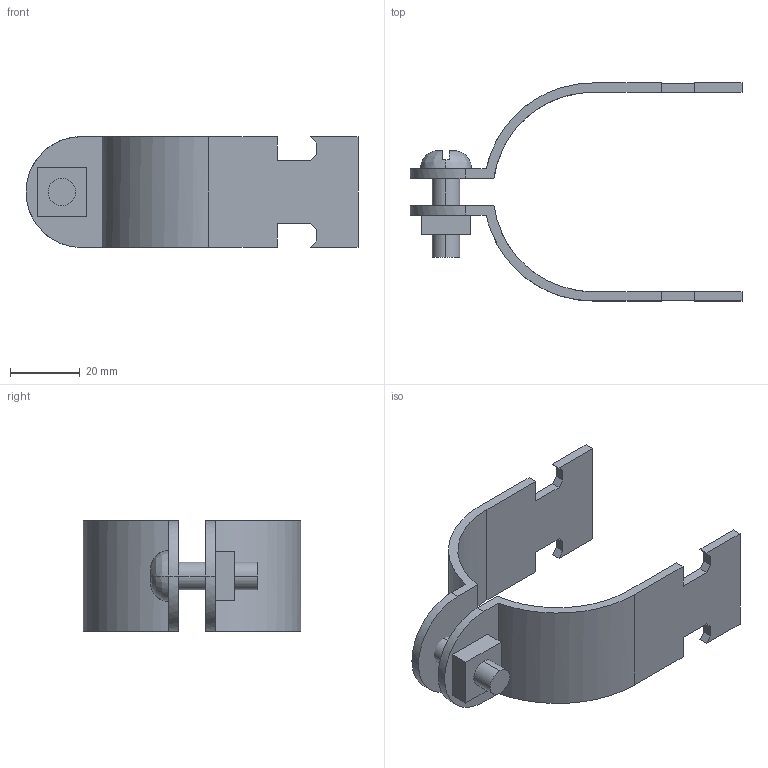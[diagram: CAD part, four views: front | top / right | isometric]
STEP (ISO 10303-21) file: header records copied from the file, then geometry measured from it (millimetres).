
FILE_DESCRIPTION(('TurboCAD Mac Pro'),'Build 980');
FILE_NAME('P2040.stp',' ',(''),(''),'ACIS Interop','IMSI','TurboCAD Mac Pro BY IMSI, INCORPORATED');
FILE_SCHEMA(('automotive_design'));
Length unit declared in the file: inch
Products named in the file (5): 1; 2; 3; 4; 5
Bounding box: 95.2 x 62.46 x 31.74 mm (x, y, z)
Volume: 19529.3 mm3; surface area: 16096.5 mm2
Topology: 4 solids, 4 shells, 75 faces, 194 edges, 128 vertices
Faces by surface type: plane 51, bspline 24
Entity records: 3631 total; most frequent: CARTESIAN_POINT 1138, ORIENTED_EDGE 388, DIRECTION 262, EDGE_CURVE 194, LINE 142, VECTOR 142, VERTEX_POINT 128, STYLED_ITEM 91
